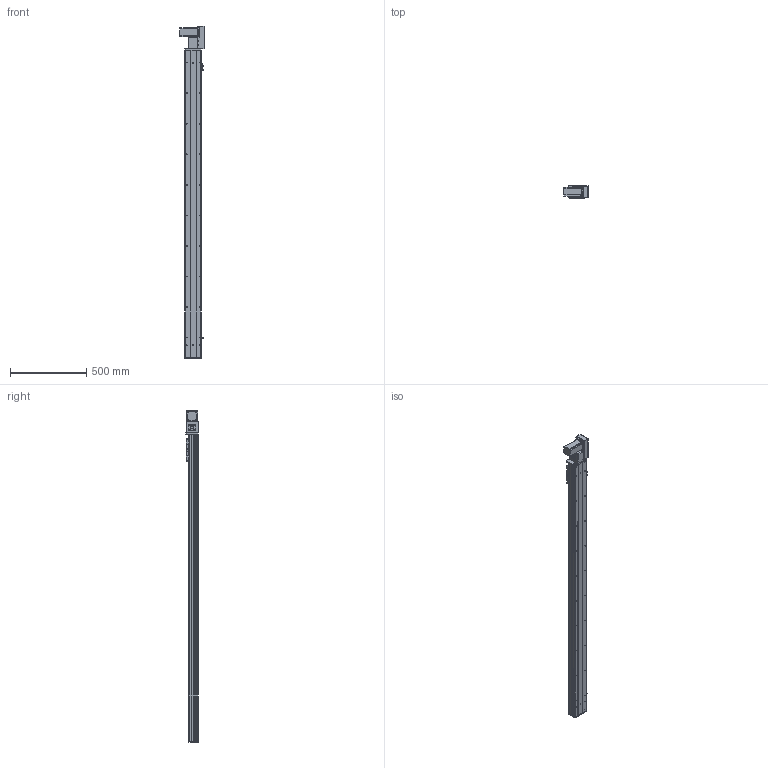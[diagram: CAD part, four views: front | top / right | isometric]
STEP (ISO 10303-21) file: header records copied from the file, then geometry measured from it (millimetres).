
FILE_DESCRIPTION (( 'STEP AP203' ), '1' );
FILE_NAME ('Y10CB-D90-S1750-BR-P400W.STEP', '2020-02-16T02:06:01', ( '微软用户' ), ( '微软中国' ), 'SwSTEP 2.0', 'SolidWorks 2017', '' );
FILE_SCHEMA (( 'CONFIG_CONTROL_DESIGN' ));
Length unit declared in the file: millimetre
Products named in the file (18): 0CB-雄赽釱---; 10CB-詩湍-; 0Cb-俋欶---; Y10CB- 掛极耜裔啣-毀---; Y10B-々湍喘謫眊楊擘啣--; Y10C---詩湍揤啣; Y10B-耜蚾蟀諉啣----; Y100-135俋离換覜ん--; 10CB9-掛极; 0B-萇儂楊擘啣; Y10B--々湍喘謫眊--666; 10CB-耜裔; san松下电机400不带刹车----; Y10CB-D90-S1750-BR-P400W; Y135C-陔俋离換覜結え-; 0B-源倛裔啣; 0B-埴倛裔啣; Y俋欶BR----
Assembly tree (21 placements, depth 2):
  Y10CB-D90-S1750-BR-P400W
    0CB-雄赽釱---
    0Cb-俋欶---
    Y10B-々湍喘謫眊楊擘啣--
    Y10B-耜蚾蟀諉啣----
    0B-萇儂楊擘啣
    san松下电机400不带刹车----
    0B-源倛裔啣
    0B-埴倛裔啣
    Y俋欶BR----
    10CB-詩湍-
    Y10CB- 掛极耜裔啣-毀---  x2
    Y10C---詩湍揤啣  x2
    10CB9-掛极
    10CB-耜裔
    Y135C-陔俋离換覜結え-
    Y100-135俋离換覜ん--  x3
    Y10B--々湍喘謫眊--666
Bounding box: 157.5 x 80.5 x 2172.5 mm (x, y, z)
Volume: 4445355.8 mm3; surface area: 2073020.6 mm2
Topology: 21 solids, 21 shells, 1038 faces, 2803 edges, 1826 vertices
Faces by surface type: cylinder 527, plane 487, cone 24
Entity records: 32904 total; most frequent: CARTESIAN_POINT 6061, DIRECTION 5266, ORIENTED_EDGE 5076, EDGE_CURVE 2538, AXIS2_PLACEMENT_3D 1881, VERTEX_POINT 1652, LINE 1504, VECTOR 1504
